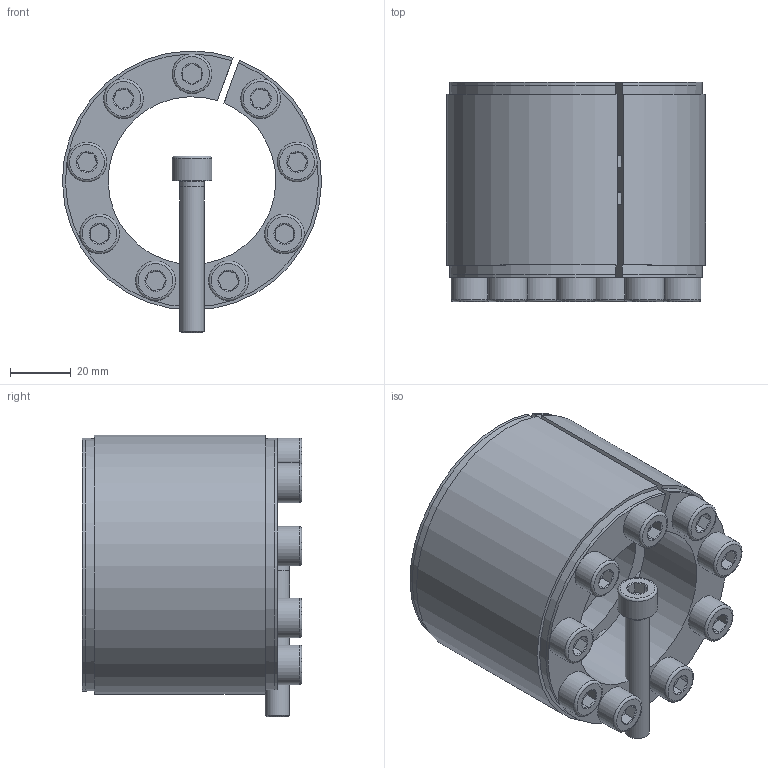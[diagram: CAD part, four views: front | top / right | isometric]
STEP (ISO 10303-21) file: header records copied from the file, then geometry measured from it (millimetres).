
FILE_DESCRIPTION( ( 'Unknown' ), '1' );
FILE_NAME( 'C:/Dokumente und Einstellungen/Sven/Desktop/homepage/cad - homepage/KBS11/KBS 11 - 55 x 85.stp', 'Unknown', ( 'Unknown' ), ( 'Unknown' ), 'XStep 1.0', 'Unknown', ' ' );
FILE_SCHEMA( ( 'automotive_design' ) );
Length unit declared in the file: millimetre
Products named in the file (3): Assem1; KBS 11 - 55 x 85; ISO EN DIN 4762 M8x50
Bounding box: 84.99 x 72 x 92.49 mm (x, y, z)
Volume: 354720.7 mm3; surface area: 133903.3 mm2
Topology: 12 solids, 12 shells, 344 faces, 736 edges, 456 vertices
Faces by surface type: plane 140, cylinder 106, cone 78, torus 20
Full cylindrical faces by diameter (mm): 7 x10, 8 x74, 13 x10
Entity records: 2430 total; most frequent: CARTESIAN_POINT 409, DIRECTION 384, ORIENTED_EDGE 286, AXIS2_PLACEMENT_3D 172, EDGE_LOOP 164, EDGE_CURVE 143, VERTEX_POINT 113, FACE_OUTER_BOUND 105
